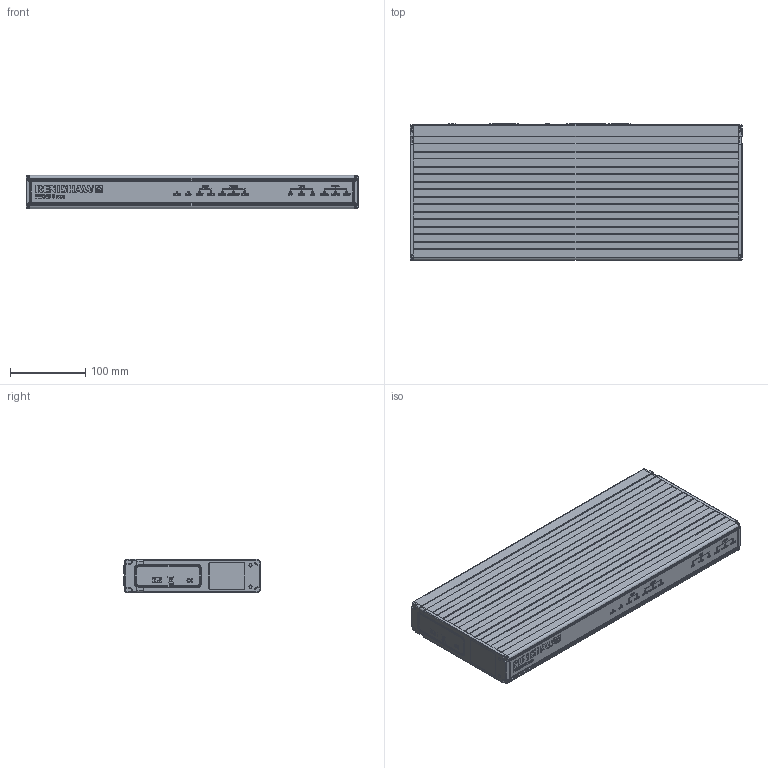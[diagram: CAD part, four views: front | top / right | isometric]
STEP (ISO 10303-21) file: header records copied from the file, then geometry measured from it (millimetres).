
FILE_DESCRIPTION(/* description */ (''),/* implementation_level */ '2;1');
FILE_NAME(/* name */ 'LA-5863-0100-A_PHC10-3 PLUS CONTROLLER ASSY.stp',/* time_stamp */ '2021-08-11T13:05:51+01:00',/* author */ (''),/* organization */ (''),/* preprocessor_version */ 'ST-DEVELOPER v16.7',/* originating_system */ 'SIEMENS PLM Software NX 1946',/* authorisation */ '');
FILE_SCHEMA (('AUTOMOTIVE_DESIGN { 1 0 10303 214 3 1 1 1 }'));
Products named in the file (1): mg1427D0287Ao743
Bounding box: 440 x 181.1 x 44.09 mm (x, y, z)
Volume: 3387167.1 mm3; surface area: 218849.5 mm2
Topology: 1 solids, 1 shells, 955 faces, 6615 edges, 5967 vertices
Faces by surface type: plane 630, cylinder 239, bspline 34, torus 28, sphere 24
Full cylindrical faces by diameter (mm): 5.5 x1, 9 x1, 17 x1
Entity records: 84064 total; most frequent: CARTESIAN_POINT 31172, ORIENTED_EDGE 13172, EDGE_CURVE 6586, VERTEX_POINT 5965, DIRECTION 5454, B_SPLINE_CURVE_WITH_KNOTS 3591, LINE 2382, VECTOR 2382
